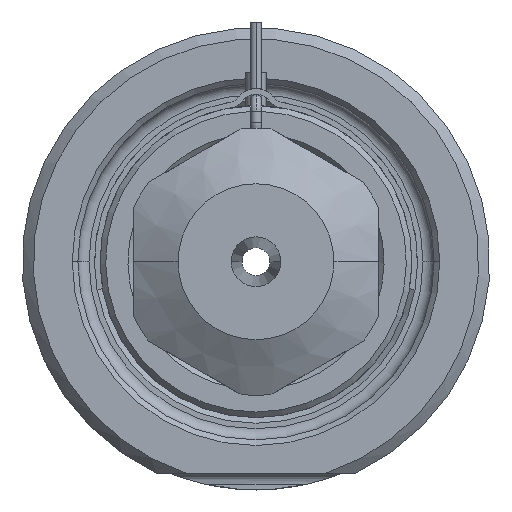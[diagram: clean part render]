
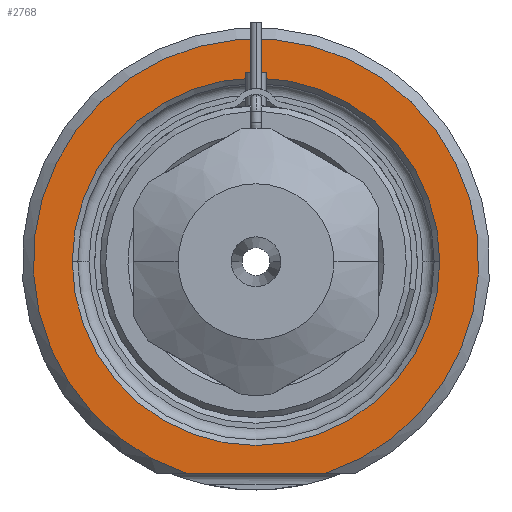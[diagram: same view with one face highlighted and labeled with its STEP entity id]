
A CAD part, front view. The second image highlights one B-rep face of the part: STEP entity #2768.
In plain terms, the highlighted planar face has unit normal (0, -1, 0).
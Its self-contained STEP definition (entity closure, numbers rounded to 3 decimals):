
#1=DIRECTION('',(1.,0.,0.));
#2=VECTOR('',#1,12.49);
#3=CARTESIAN_POINT('',(-6.245,0.,-19.));
#4=LINE('',#3,#2);
#5=CARTESIAN_POINT('',(0.,0.,0.));
#6=DIRECTION('',(0.,1.,0.));
#7=DIRECTION('',(-1.,0.,0.));
#8=AXIS2_PLACEMENT_3D('',#5,#6,#7);
#10=CARTESIAN_POINT('',(0.,0.,0.));
#11=DIRECTION('',(0.,1.,0.));
#12=DIRECTION('',(1.,0.,0.));
#13=AXIS2_PLACEMENT_3D('',#10,#11,#12);
#119=CARTESIAN_POINT('',(0.,0.,0.));
#120=DIRECTION('',(0.,-1.,0.));
#121=DIRECTION('',(0.312,0.,-0.95));
#122=AXIS2_PLACEMENT_3D('',#119,#120,#121);
#2311=CARTESIAN_POINT('',(-16.5,0.,0.));
#2312=CARTESIAN_POINT('',(16.5,0.,0.));
#2313=VERTEX_POINT('',#2311);
#2314=VERTEX_POINT('',#2312);
#2351=CARTESIAN_POINT('',(-6.245,0.,-19.));
#2352=CARTESIAN_POINT('',(6.245,0.,-19.));
#2353=VERTEX_POINT('',#2351);
#2354=VERTEX_POINT('',#2352);
#2751=CARTESIAN_POINT('',(0.,0.,0.));
#2752=DIRECTION('',(0.,-1.,0.));
#2753=DIRECTION('',(1.,0.,0.));
#2754=AXIS2_PLACEMENT_3D('',#2751,#2752,#2753);
#2755=PLANE('',#2754);
#2757=ORIENTED_EDGE('',*,*,#2756,.F.);
#2759=ORIENTED_EDGE('',*,*,#2758,.F.);
#2760=EDGE_LOOP('',(#2757,#2759));
#2761=FACE_OUTER_BOUND('',#2760,.F.);
#2763=ORIENTED_EDGE('',*,*,#2762,.F.);
#2765=ORIENTED_EDGE('',*,*,#2764,.F.);
#2766=EDGE_LOOP('',(#2763,#2765));
#2767=FACE_BOUND('',#2766,.F.);
#2768=ADVANCED_FACE('',(#2761,#2767),#2755,.T.);
#9=CIRCLE('',#8,16.5);
#14=CIRCLE('',#13,16.5);
#123=CIRCLE('',#122,20.);
#2756=EDGE_CURVE('',#2353,#2354,#4,.T.);
#2758=EDGE_CURVE('',#2354,#2353,#123,.T.);
#2762=EDGE_CURVE('',#2313,#2314,#9,.T.);
#2764=EDGE_CURVE('',#2314,#2313,#14,.T.);
